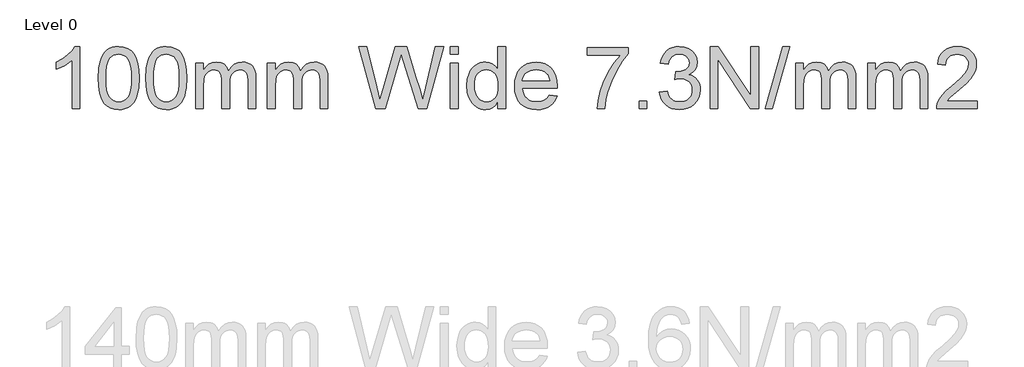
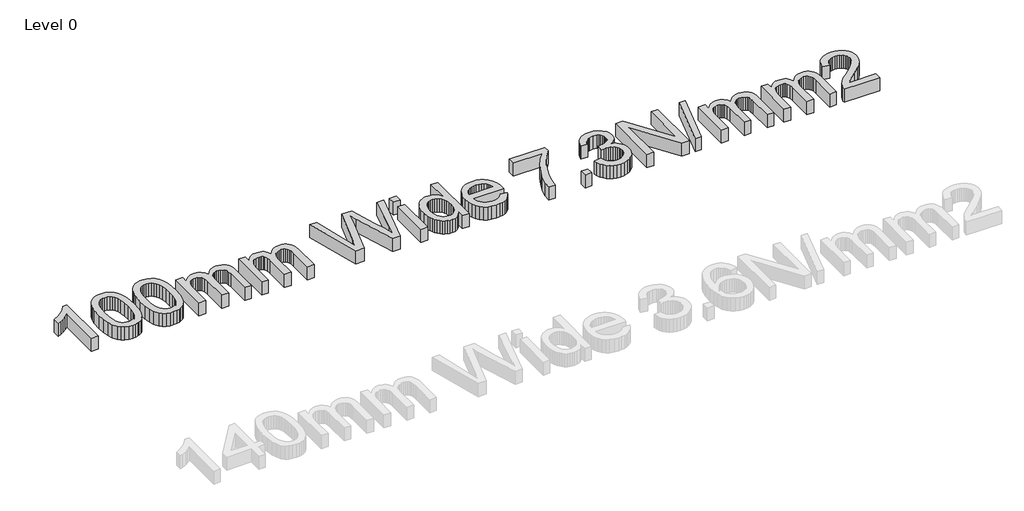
# One storey, part 3 of 4: 1 proxy.
"""IFC4 building model written with IfcOpenShell, lengths in millimetres."""

from ifc_helpers import new_model, si_unit, origin, origin_with_axes, place, context, project, spatial, polyline, outline, extrude, element, save

model = new_model("IFC4")

# Units and contexts
model_context = context("Model", 3, world=origin())
ifc_project = project(units=[si_unit("LENGTHUNIT", "METRE", prefix="MILLI")], contexts=[model_context])

# Site, building, storey
site = spatial("IfcSite", under=ifc_project)
building = spatial("IfcBuilding", under=site)
storey = spatial("IfcBuildingStorey", under=building, Name="Level 0", Elevation=0.0)

# Proxy
placement = place(None, origin())
element("IfcBuildingElementProxy", 1, Name="600mm Arial", ObjectType="600mm Arial", at=placement, inside=storey, context=model_context, shape_type="SweptSolid", body=[
    extrude(outline(polyline([(-38100.5892099, 16805.1347161), (-38174.4353638, 16805.1347161), (-38174.4353638, 17265.5193315), (-38205.2646907, 17240.5854372), (-38244.3872868, 17215.6876007), (-38285.4569984, 17193.9267834), (-38322.1276714, 17178.4039468), (-38322.1276714, 17248.2116392), (-38264.1288734, 17279.7621199), (-38213.8824791, 17317.2981776), (-38174.2731041, 17357.214043), (-38148.1853638, 17395.9039468), (-38100.5892099, 17395.9039468), (-38100.5892099, 16805.1347161)])), origin_with_axes(), (0.0, 0.0, 1.0), 150.0),
    extrude(outline(polyline([(-37925.2045945, 17095.7597161), (-37919.7779118, 17190.3210142), (-37912.9945585, 17230.4216752), (-37903.4978638, 17265.7356776), (-37891.3283926, 17296.5514829), (-37876.5267099, 17323.1575526), (-37859.0928157, 17345.5538868), (-37839.0267099, 17363.7404853), (-37816.2607844, 17377.8119997), (-37790.7274311, 17387.8630815), (-37762.4266498, 17393.8937305), (-37731.3584407, 17395.9039468), (-37685.853633, 17391.1443315), (-37645.1084407, 17376.8654853), (-37611.0339214, 17353.6263026), (-37585.541133, 17321.9856776), (-37566.2863253, 17282.214043), (-37550.9257484, 17234.5818315), (-37540.8656522, 17174.0950526), (-37537.5122868, 17095.7597161), (-37542.884883, 17001.7392834), (-37549.6006282, 16961.7738387), (-37559.0026714, 16926.5049084), (-37571.0774912, 16895.6755815), (-37585.8115657, 16869.0289468), (-37603.204895, 16846.5650045), (-37623.2574791, 16828.2837545), (-37646.0504479, 16814.1175887), (-37671.6649311, 16803.9988988), (-37700.1009287, 16797.9276848), (-37731.3584407, 16795.9039468), (-37772.0315176, 16799.4195718), (-37808.0892099, 16809.9664468), (-37839.5315176, 16827.5445718), (-37866.3584407, 16852.1539468), (-37892.103633, 16896.6401247), (-37910.4930561, 16952.0698122), (-37921.5267099, 17018.4430093), (-37925.2045945, 17095.7597161)]), holes=[polyline([(-37851.3584407, 17095.9039468), (-37849.1949791, 17031.7077329), (-37842.7045945, 16979.7440911), (-37831.8872868, 16940.0130214), (-37816.7430561, 16912.5145238), (-37798.4257484, 16893.8050887), (-37778.0892099, 16880.4412065), (-37755.7334407, 16872.4228771), (-37731.3584407, 16869.7501007), (-37706.9834407, 16872.4318916), (-37684.6276714, 16880.4772642), (-37664.291133, 16893.8862185), (-37645.9738253, 16912.6587545), (-37630.8295945, 16940.2023243), (-37620.0122868, 16979.9243795), (-37613.5219022, 17031.8249204), (-37611.3584407, 17095.9039468), (-37613.4497868, 17158.400942), (-37619.7238253, 17209.4496199), (-37630.1805561, 17249.0499805), (-37644.8199791, 17277.2020238), (-37662.8307964, 17296.8264228), (-37683.4017099, 17310.8438507), (-37706.5327195, 17319.2543074), (-37732.2238253, 17322.057793), (-37756.4726234, 17319.5878411), (-37778.4497868, 17312.1779853), (-37798.1553157, 17299.8282257), (-37815.5892099, 17282.5385622), (-37831.2382484, 17251.8895238), (-37842.416133, 17210.5674084), (-37849.1228638, 17158.5722161), (-37851.3584407, 17095.9039468)])]), origin_with_axes(), (0.0, 0.0, 1.0), 150.0),
    extrude(outline(polyline([(-37472.8969022, 17095.7597161), (-37467.4702195, 17190.3210142), (-37460.6868662, 17230.4216752), (-37451.1901714, 17265.7356776), (-37439.0207003, 17296.5514829), (-37424.2190176, 17323.1575526), (-37406.7851234, 17345.5538868), (-37386.7190176, 17363.7404853), (-37363.9530921, 17377.8119997), (-37338.4197388, 17387.8630815), (-37310.1189575, 17393.8937305), (-37279.0507484, 17395.9039468), (-37233.5459407, 17391.1443315), (-37192.8007484, 17376.8654853), (-37158.7262291, 17353.6263026), (-37133.2334407, 17321.9856776), (-37113.978633, 17282.214043), (-37098.6180561, 17234.5818315), (-37088.5579599, 17174.0950526), (-37085.2045945, 17095.7597161), (-37090.5771907, 17001.7392834), (-37097.2929359, 16961.7738387), (-37106.6949791, 16926.5049084), (-37118.7697988, 16895.6755815), (-37133.5038734, 16869.0289468), (-37150.8972027, 16846.5650045), (-37170.9497868, 16828.2837545), (-37193.7427556, 16814.1175887), (-37219.3572388, 16803.9988988), (-37247.7932363, 16797.9276848), (-37279.0507484, 16795.9039468), (-37319.7238253, 16799.4195718), (-37355.7815176, 16809.9664468), (-37387.2238253, 16827.5445718), (-37414.0507484, 16852.1539468), (-37439.7959407, 16896.6401247), (-37458.1853638, 16952.0698122), (-37469.2190176, 17018.4430093), (-37472.8969022, 17095.7597161)]), holes=[polyline([(-37399.0507484, 17095.9039468), (-37396.8872868, 17031.7077329), (-37390.3969022, 16979.7440911), (-37379.5795945, 16940.0130214), (-37364.4353638, 16912.5145238), (-37346.1180561, 16893.8050887), (-37325.7815176, 16880.4412065), (-37303.4257484, 16872.4228771), (-37279.0507484, 16869.7501007), (-37254.6757484, 16872.4318916), (-37232.3199791, 16880.4772642), (-37211.9834407, 16893.8862185), (-37193.666133, 16912.6587545), (-37178.5219022, 16940.2023243), (-37167.7045945, 16979.9243795), (-37161.2142099, 17031.8249204), (-37159.0507484, 17095.9039468), (-37161.1420945, 17158.400942), (-37167.416133, 17209.4496199), (-37177.8728638, 17249.0499805), (-37192.5122868, 17277.2020238), (-37210.5231041, 17296.8264228), (-37231.0940176, 17310.8438507), (-37254.2250272, 17319.2543074), (-37279.916133, 17322.057793), (-37304.1649311, 17319.5878411), (-37326.1420945, 17312.1779853), (-37345.8476234, 17299.8282257), (-37363.2815176, 17282.5385622), (-37378.9305561, 17251.8895238), (-37390.1084407, 17210.5674084), (-37396.8151714, 17158.5722161), (-37399.0507484, 17095.9039468)])]), origin_with_axes(), (0.0, 0.0, 1.0), 150.0),
    extrude(outline(polyline([(-37002.1276714, 16805.1347161), (-37002.1276714, 17238.9808699), (-36928.2815176, 17238.9808699), (-36928.2815176, 17167.5866392), (-36906.0699791, 17200.3811103), (-36877.5122868, 17226.0722161), (-36843.5819984, 17242.6767834), (-36805.2526714, 17248.2116392), (-36764.1829599, 17242.5686103), (-36746.7039936, 17235.5148243), (-36731.2622868, 17225.6395238), (-36706.6709407, 17198.542168), (-36690.5892099, 17162.3943315), (-36663.6721426, 17199.9394036), (-36632.9690176, 17226.7573122), (-36598.4798349, 17242.8480574), (-36560.2045945, 17248.2116392), (-36530.641794, 17245.9805694), (-36504.6937772, 17239.2873603), (-36482.360544, 17228.1320118), (-36463.6420945, 17212.5145238), (-36448.844919, 17192.2546079), (-36438.275508, 17167.1719757), (-36431.9338613, 17137.2666271), (-36429.8199791, 17102.5385622), (-36429.8199791, 16805.1347161), (-36503.666133, 16805.1347161), (-36503.666133, 17070.807793), (-36505.3788734, 17107.6407257), (-36510.5170945, 17132.4664468), (-36520.1444984, 17149.4676488), (-36535.3247868, 17162.8270238), (-36554.8500272, 17171.4808699), (-36577.5122868, 17174.3654853), (-36598.43927, 17172.5175286), (-36617.5182964, 17166.9736584), (-36634.7493662, 17157.7338747), (-36650.1324791, 17144.7981776), (-36662.7842219, 17127.7879613), (-36671.8211811, 17106.3246199), (-36677.2433565, 17080.4081536), (-36679.0507484, 17050.0385622), (-36679.0507484, 16805.1347161), (-36752.8969022, 16805.1347161), (-36752.8969022, 17079.0289468), (-36757.1697388, 17120.7837545), (-36769.9882484, 17150.5674084), (-36779.8996065, 17160.979067), (-36792.5423349, 17168.4159661), (-36807.9164335, 17172.8781055), (-36826.0219022, 17174.3654853), (-36854.4714214, 17170.3991392), (-36880.6853638, 17158.5001007), (-36902.3199791, 17138.9568315), (-36917.0315176, 17112.057793), (-36925.4690176, 17074.7380815), (-36928.2815176, 17023.932793), (-36928.2815176, 16805.1347161), (-37002.1276714, 16805.1347161)])), origin_with_axes(), (0.0, 0.0, 1.0), 150.0),
    extrude(outline(polyline([(-36319.0507484, 16805.1347161), (-36319.0507484, 17238.9808699), (-36245.2045945, 17238.9808699), (-36245.2045945, 17167.5866392), (-36222.9930561, 17200.3811103), (-36194.4353638, 17226.0722161), (-36160.5050753, 17242.6767834), (-36122.1757484, 17248.2116392), (-36081.1060368, 17242.5686103), (-36063.6270705, 17235.5148243), (-36048.1853638, 17225.6395238), (-36023.5940176, 17198.542168), (-36007.5122868, 17162.3943315), (-35980.5952195, 17199.9394036), (-35949.8920945, 17226.7573122), (-35915.4029118, 17242.8480574), (-35877.1276714, 17248.2116392), (-35847.564871, 17245.9805694), (-35821.6168541, 17239.2873603), (-35799.283621, 17228.1320118), (-35780.5651714, 17212.5145238), (-35765.767996, 17192.2546079), (-35755.1985849, 17167.1719757), (-35748.8569383, 17137.2666271), (-35746.7430561, 17102.5385622), (-35746.7430561, 16805.1347161), (-35820.5892099, 16805.1347161), (-35820.5892099, 17070.807793), (-35822.3019503, 17107.6407257), (-35827.4401714, 17132.4664468), (-35837.0675753, 17149.4676488), (-35852.2478638, 17162.8270238), (-35871.7731041, 17171.4808699), (-35894.4353638, 17174.3654853), (-35915.3623469, 17172.5175286), (-35934.4413734, 17166.9736584), (-35951.6724431, 17157.7338747), (-35967.0555561, 17144.7981776), (-35979.7072988, 17127.7879613), (-35988.744258, 17106.3246199), (-35994.1664335, 17080.4081536), (-35995.9738253, 17050.0385622), (-35995.9738253, 16805.1347161), (-36069.8199791, 16805.1347161), (-36069.8199791, 17079.0289468), (-36074.0928157, 17120.7837545), (-36086.9113253, 17150.5674084), (-36096.8226835, 17160.979067), (-36109.4654118, 17168.4159661), (-36124.8395104, 17172.8781055), (-36142.9449791, 17174.3654853), (-36171.3944984, 17170.3991392), (-36197.6084407, 17158.5001007), (-36219.2430561, 17138.9568315), (-36233.9545945, 17112.057793), (-36242.3920945, 17074.7380815), (-36245.2045945, 17023.932793), (-36245.2045945, 16805.1347161), (-36319.0507484, 16805.1347161)])), origin_with_axes(), (0.0, 0.0, 1.0), 150.0),
    extrude(outline(polyline([(-35290.2526714, 16805.1347161), (-35451.3584407, 17395.9039468), (-35375.2045945, 17395.9039468), (-35281.7430561, 17007.6347161), (-35252.8969022, 16887.7789468), (-35222.0315176, 16993.7885622), (-35104.916133, 17395.9039468), (-34995.1565176, 17395.9039468), (-34910.0603638, 17104.4135622), (-34873.6060368, 16996.2404853), (-34846.7430561, 16887.7789468), (-34818.7622868, 17004.1731776), (-34724.4353638, 17395.9039468), (-34648.2815176, 17395.9039468), (-34809.5315176, 16805.1347161), (-34888.4257484, 16805.1347161), (-35030.0603638, 17260.9039468), (-35049.8199791, 17324.5097161), (-35072.0315176, 17247.9231776), (-35201.1180561, 16805.1347161), (-35290.2526714, 16805.1347161)])), origin_with_axes(), (0.0, 0.0, 1.0), 150.0),
    extrude(outline(polyline([(-34583.666133, 16805.1347161), (-34583.666133, 17238.9808699), (-34509.8199791, 17238.9808699), (-34509.8199791, 16805.1347161), (-34583.666133, 16805.1347161)])), origin_with_axes(), (0.0, 0.0, 1.0), 150.0),
    extrude(outline(polyline([(-34583.666133, 17322.057793), (-34583.666133, 17395.9039468), (-34509.8199791, 17395.9039468), (-34509.8199791, 17322.057793), (-34583.666133, 17322.057793)])), origin_with_axes(), (0.0, 0.0, 1.0), 150.0),
    extrude(outline(polyline([(-34131.3584407, 16805.1347161), (-34131.3584407, 16874.7981776), (-34153.4527916, 16840.2819517), (-34180.2166138, 16815.6275045), (-34211.649907, 16800.8348363), (-34247.7526714, 16795.9039468), (-34272.1276714, 16797.6888026), (-34295.4930561, 16803.0433699), (-34317.8488253, 16811.9676488), (-34339.1949791, 16824.4616392), (-34358.8644503, 16840.1512425), (-34376.1901714, 16858.6623603), (-34391.1721426, 16879.9949925), (-34403.8103638, 16904.1491392), (-34413.8434166, 16930.6650646), (-34421.009883, 16959.0830334), (-34426.7430561, 17021.6251007), (-34421.4606041, 17083.3919276), (-34405.6132484, 17139.1731776), (-34393.7322388, 17164.025942), (-34379.2190176, 17185.7957738), (-34362.0735849, 17204.4826728), (-34342.2959407, 17220.0866392), (-34320.5847027, 17232.3913267), (-34297.6384888, 17241.1803892), (-34273.4572988, 17246.4538267), (-34248.041133, 17248.2116392), (-34211.9113253, 17243.1815911), (-34179.9642099, 17228.0914468), (-34152.884883, 17204.9604372), (-34131.3584407, 17175.807793), (-34131.3584407, 17395.9039468), (-34057.5122868, 17395.9039468), (-34057.5122868, 16805.1347161), (-34131.3584407, 16805.1347161)]), holes=[polyline([(-34352.8969022, 17021.9135622), (-34350.8145705, 16986.1037666), (-34344.5675753, 16955.1166872), (-34334.1559166, 16928.9523243), (-34319.5795945, 16907.6106776), (-34302.1727436, 16891.0466752), (-34283.2694984, 16879.2152449), (-34262.8698589, 16872.1163868), (-34240.9738253, 16869.7501007), (-34218.9741258, 16872.0082137), (-34198.6961811, 16878.7825526), (-34180.1399912, 16890.0731175), (-34163.3055561, 16905.8799084), (-34149.3286931, 16926.3291271), (-34139.3452195, 16951.5469757), (-34133.3551354, 16981.5334541), (-34131.3584407, 17016.2885622), (-34133.3911931, 17054.3925286), (-34139.4894503, 17087.0698122), (-34149.6532123, 17114.3204132), (-34163.8824791, 17136.1443315), (-34181.0865056, 17152.8660863), (-34200.1745464, 17164.8101968), (-34221.1466017, 17171.9766632), (-34244.0026714, 17174.3654853), (-34266.3313974, 17172.0713146), (-34286.7310368, 17165.1888026), (-34305.2015897, 17153.7179493), (-34321.7430561, 17137.6587545), (-34335.3728638, 17116.659656), (-34345.1084407, 17090.3690911), (-34350.9497868, 17058.7870598), (-34352.8969022, 17021.9135622)])]), origin_with_axes(), (0.0, 0.0, 1.0), 150.0),
    extrude(outline(polyline([(-33642.9930561, 16934.3654853), (-33570.5892099, 16925.1347161), (-33581.6904719, 16896.135317), (-33596.6769503, 16870.5794276), (-33615.548645, 16848.4670478), (-33638.3055561, 16829.7981776), (-33664.7133085, 16814.9694517), (-33694.5375272, 16804.3775045), (-33727.7782123, 16798.0223363), (-33764.4353638, 16795.9039468), (-33810.2556763, 16799.5592954), (-33851.0819984, 16810.5253411), (-33886.9143301, 16828.8020839), (-33917.7526714, 16854.3895238), (-33942.5513493, 16886.5755214), (-33960.2646907, 16924.6479372), (-33970.8926955, 16968.6067714), (-33974.4353638, 17018.4520238), (-33970.8566378, 17069.9874805), (-33960.1204599, 17115.4111584), (-33942.2268301, 17154.7230574), (-33917.1757484, 17187.9231776), (-33886.4185368, 17214.2993795), (-33851.4065176, 17233.1395238), (-33812.1396907, 17244.4436103), (-33768.6180561, 17248.2116392), (-33726.4981642, 17244.4526247), (-33688.4077195, 17233.1755815), (-33654.3467219, 17214.3805093), (-33624.3151714, 17188.0674084), (-33599.8004479, 17154.9394036), (-33582.2899311, 17115.6996199), (-33571.783621, 17070.3480574), (-33568.2815176, 17018.8847161), (-33568.7142099, 16998.9808699), (-33900.5892099, 16998.9808699), (-33896.3118662, 16969.5127209), (-33887.806758, 16943.7044276), (-33875.0738854, 16921.5559901), (-33858.1132484, 16903.0674084), (-33837.8623469, 16888.4910863), (-33815.2586811, 16878.0794276), (-33790.3022508, 16871.8324324), (-33762.9930561, 16869.7501007), (-33723.6901714, 16873.6082738), (-33690.5892099, 16885.182793), (-33663.6901714, 16905.1948122), (-33642.9930561, 16934.3654853)]), holes=[polyline([(-33900.5892099, 17072.8270238), (-33642.1276714, 17072.8270238), (-33652.1156522, 17111.8414468), (-33660.7063974, 17127.1839949), (-33671.6949791, 17139.7501007), (-33691.8332003, 17154.8943315), (-33714.7478638, 17165.7116392), (-33740.4389695, 17172.2020238), (-33768.9065176, 17174.3654853), (-33794.8725633, 17172.6392233), (-33818.6841618, 17167.4604372), (-33840.3413133, 17158.8291271), (-33859.8440176, 17146.745293), (-33876.2097027, 17131.7678291), (-33888.4557964, 17114.4556295), (-33896.5822988, 17094.8086944), (-33900.5892099, 17072.8270238)])]), origin_with_axes(), (0.0, 0.0, 1.0), 150.0),
    extrude(outline(polyline([(-33282.1276714, 17312.8270238), (-33282.1276714, 17386.6731776), (-32894.4353638, 17386.6731776), (-32894.4353638, 17326.9616392), (-32949.6937772, 17257.0277449), (-33004.4113253, 17168.0914468), (-33052.6745464, 17068.2657257), (-33088.5699791, 16965.6635622), (-33106.166133, 16888.8967353), (-33115.9738253, 16805.1347161), (-33189.8199791, 16805.1347161), (-33181.8332003, 16881.2525045), (-33160.4690176, 16971.7212545), (-33126.3043541, 17067.6166872), (-33079.916133, 17160.0145238), (-33025.7574791, 17243.542168), (-32968.2815176, 17312.8270238), (-33282.1276714, 17312.8270238)])), origin_with_axes(), (0.0, 0.0, 1.0), 150.0),
    extrude(outline(polyline([(-32792.8969022, 16805.1347161), (-32792.8969022, 16878.9808699), (-32719.0507484, 16878.9808699), (-32719.0507484, 16805.1347161), (-32792.8969022, 16805.1347161)])), origin_with_axes(), (0.0, 0.0, 1.0), 150.0),
    extrude(outline(polyline([(-32599.0507484, 16962.057793), (-32525.2045945, 16971.2885622), (-32508.6721426, 16924.8823122), (-32497.5258085, 16907.3312305), (-32484.4594022, 16893.5481776), (-32469.1754479, 16883.136519), (-32451.3764695, 16875.6996199), (-32431.0624671, 16871.2374805), (-32408.2334407, 16869.7501007), (-32381.478633, 16871.7963747), (-32357.6084407, 16877.9351968), (-32336.6228638, 16888.166567), (-32318.5219022, 16902.4904853), (-32303.9455801, 16919.8342353), (-32293.5339214, 16939.1251007), (-32287.2869263, 16960.3630815), (-32285.2045945, 16983.5481776), (-32287.2688974, 17005.6290069), (-32293.4618061, 17025.7176488), (-32303.7833205, 17043.8141031), (-32318.2334407, 17059.9183699), (-32335.8656522, 17073.1380214), (-32355.7334407, 17082.5806295), (-32377.8368061, 17088.2461944), (-32402.1757484, 17090.1347161), (-32425.5050753, 17088.1154853), (-32453.9545945, 17082.057793), (-32445.7334407, 17155.9039468), (-32433.9065176, 17155.0385622), (-32389.6637291, 17160.339043), (-32350.1084407, 17176.2404853), (-32333.8283926, 17188.2657257), (-32322.1997868, 17203.1395238), (-32315.2226234, 17220.8618795), (-32312.8969022, 17241.432793), (-32314.5825993, 17258.1320118), (-32319.6396907, 17273.3258218), (-32328.0681763, 17287.0142233), (-32339.8680561, 17299.1972161), (-32354.3271907, 17309.1987185), (-32370.7334407, 17316.3426488), (-32409.3872868, 17322.057793), (-32448.1132484, 17316.2885622), (-32464.8259888, 17309.0770238), (-32479.7719022, 17298.9808699), (-32492.5813974, 17286.0001007), (-32502.884883, 17270.1347161), (-32510.6823589, 17251.3847161), (-32515.9738253, 17229.7501007), (-32589.8199791, 17238.9808699), (-32581.0669743, 17274.2362786), (-32568.0771907, 17305.2909661), (-32550.8506282, 17332.1449324), (-32529.3872868, 17354.7981776), (-32504.3632484, 17372.7819517), (-32476.4545945, 17385.6275045), (-32445.6613253, 17393.3348363), (-32411.9834407, 17395.9039468), (-32365.5591618, 17390.8378411), (-32322.9209407, 17375.6395238), (-32286.9714214, 17351.6611584), (-32260.6132484, 17320.2549084), (-32244.4413734, 17284.0710142), (-32239.0507484, 17245.7597161), (-32244.1709407, 17210.0626007), (-32259.5315176, 17177.682793), (-32284.916133, 17150.0986584), (-32320.1084407, 17128.7885622), (-32295.4990657, 17121.0902449), (-32273.8824791, 17110.1106776), (-32255.2586811, 17095.8498603), (-32239.6276714, 17078.307793), (-32227.259883, 17057.917168), (-32218.4257484, 17035.1106776), (-32213.1252676, 17009.8883218), (-32211.3584407, 16982.2501007), (-32214.8920945, 16944.7861584), (-32225.4930561, 16910.2789468), (-32243.1613253, 16878.7284661), (-32267.8969022, 16850.1347161), (-32298.0321186, 16826.4087545), (-32331.8993061, 16809.4616392), (-32369.4984647, 16799.2933699), (-32410.8295945, 16795.9039468), (-32448.1853638, 16798.7975767), (-32482.2238253, 16807.4784661), (-32512.9449791, 16821.9466151), (-32540.3488253, 16842.2020238), (-32563.3265897, 16867.0547882), (-32580.7694984, 16895.3150045), (-32592.6775513, 16926.9826728), (-32599.0507484, 16962.057793)])), origin_with_axes(), (0.0, 0.0, 1.0), 150.0),
    extrude(outline(polyline([(-32119.0507484, 16805.1347161), (-32119.0507484, 17395.9039468), (-32040.0122868, 17395.9039468), (-31731.3584407, 16927.8751007), (-31731.3584407, 17395.9039468), (-31657.5122868, 17395.9039468), (-31657.5122868, 16805.1347161), (-31736.5507484, 16805.1347161), (-32045.2045945, 17273.307793), (-32045.2045945, 16805.1347161), (-32119.0507484, 16805.1347161)])), origin_with_axes(), (0.0, 0.0, 1.0), 150.0),
    extrude(outline(polyline([(-31592.8969022, 16805.1347161), (-31426.7430561, 17395.9039468), (-31360.1084407, 17395.9039468), (-31526.2622868, 16805.1347161), (-31592.8969022, 16805.1347161)])), origin_with_axes(), (0.0, 0.0, 1.0), 150.0),
    extrude(outline(polyline([(-31306.7430561, 16805.1347161), (-31306.7430561, 17238.9808699), (-31232.8969022, 17238.9808699), (-31232.8969022, 17167.5866392), (-31210.6853638, 17200.3811103), (-31182.1276714, 17226.0722161), (-31148.197383, 17242.6767834), (-31109.8680561, 17248.2116392), (-31068.7983445, 17242.5686103), (-31051.3193782, 17235.5148243), (-31035.8776714, 17225.6395238), (-31011.2863253, 17198.542168), (-30995.2045945, 17162.3943315), (-30968.2875272, 17199.9394036), (-30937.5844022, 17226.7573122), (-30903.0952195, 17242.8480574), (-30864.8199791, 17248.2116392), (-30835.2571787, 17245.9805694), (-30809.3091618, 17239.2873603), (-30786.9759287, 17228.1320118), (-30768.2574791, 17212.5145238), (-30753.4603037, 17192.2546079), (-30742.8908926, 17167.1719757), (-30736.549246, 17137.2666271), (-30734.4353638, 17102.5385622), (-30734.4353638, 16805.1347161), (-30808.2815176, 16805.1347161), (-30808.2815176, 17070.807793), (-30809.994258, 17107.6407257), (-30815.1324791, 17132.4664468), (-30824.759883, 17149.4676488), (-30839.9401714, 17162.8270238), (-30859.4654118, 17171.4808699), (-30882.1276714, 17174.3654853), (-30903.0546546, 17172.5175286), (-30922.1336811, 17166.9736584), (-30939.3647508, 17157.7338747), (-30954.7478638, 17144.7981776), (-30967.3996065, 17127.7879613), (-30976.4365657, 17106.3246199), (-30981.8587412, 17080.4081536), (-30983.666133, 17050.0385622), (-30983.666133, 16805.1347161), (-31057.5122868, 16805.1347161), (-31057.5122868, 17079.0289468), (-31061.7851234, 17120.7837545), (-31074.603633, 17150.5674084), (-31084.5149912, 17160.979067), (-31097.1577195, 17168.4159661), (-31112.5318181, 17172.8781055), (-31130.6372868, 17174.3654853), (-31159.0868061, 17170.3991392), (-31185.3007484, 17158.5001007), (-31206.9353638, 17138.9568315), (-31221.6469022, 17112.057793), (-31230.0844022, 17074.7380815), (-31232.8969022, 17023.932793), (-31232.8969022, 16805.1347161), (-31306.7430561, 16805.1347161)])), origin_with_axes(), (0.0, 0.0, 1.0), 150.0),
    extrude(outline(polyline([(-30623.666133, 16805.1347161), (-30623.666133, 17238.9808699), (-30549.8199791, 17238.9808699), (-30549.8199791, 17167.5866392), (-30527.6084407, 17200.3811103), (-30499.0507484, 17226.0722161), (-30465.1204599, 17242.6767834), (-30426.791133, 17248.2116392), (-30385.7214214, 17242.5686103), (-30368.2424551, 17235.5148243), (-30352.8007484, 17225.6395238), (-30328.2094022, 17198.542168), (-30312.1276714, 17162.3943315), (-30285.2106041, 17199.9394036), (-30254.5074791, 17226.7573122), (-30220.0182964, 17242.8480574), (-30181.7430561, 17248.2116392), (-30152.1802556, 17245.9805694), (-30126.2322388, 17239.2873603), (-30103.8990056, 17228.1320118), (-30085.1805561, 17212.5145238), (-30070.3833806, 17192.2546079), (-30059.8139695, 17167.1719757), (-30053.4723229, 17137.2666271), (-30051.3584407, 17102.5385622), (-30051.3584407, 16805.1347161), (-30125.2045945, 16805.1347161), (-30125.2045945, 17070.807793), (-30126.9173349, 17107.6407257), (-30132.0555561, 17132.4664468), (-30141.6829599, 17149.4676488), (-30156.8632484, 17162.8270238), (-30176.3884888, 17171.4808699), (-30199.0507484, 17174.3654853), (-30219.9777315, 17172.5175286), (-30239.056758, 17166.9736584), (-30256.2878277, 17157.7338747), (-30271.6709407, 17144.7981776), (-30284.3226835, 17127.7879613), (-30293.3596426, 17106.3246199), (-30298.7818181, 17080.4081536), (-30300.5892099, 17050.0385622), (-30300.5892099, 16805.1347161), (-30374.4353638, 16805.1347161), (-30374.4353638, 17079.0289468), (-30378.7082003, 17120.7837545), (-30391.5267099, 17150.5674084), (-30401.4380681, 17160.979067), (-30414.0807964, 17168.4159661), (-30429.454895, 17172.8781055), (-30447.5603638, 17174.3654853), (-30476.009883, 17170.3991392), (-30502.2238253, 17158.5001007), (-30523.8584407, 17138.9568315), (-30538.5699791, 17112.057793), (-30547.0074791, 17074.7380815), (-30549.8199791, 17023.932793), (-30549.8199791, 16805.1347161), (-30623.666133, 16805.1347161)])), origin_with_axes(), (0.0, 0.0, 1.0), 150.0),
    extrude(outline(polyline([(-29580.5892099, 16878.9808699), (-29580.5892099, 16805.1347161), (-29968.2815176, 16805.1347161), (-29966.6589214, 16831.1323122), (-29960.3488253, 16856.0481776), (-29942.1396907, 16895.8378411), (-29915.4930561, 16934.4376007), (-29876.947383, 16974.8402449), (-29823.041133, 17020.0385622), (-29743.353633, 17090.8198122), (-29695.541133, 17143.0674084), (-29681.5958205, 17164.4135622), (-29671.634883, 17185.4712545), (-29665.6583205, 17206.2404853), (-29663.666133, 17226.7212545), (-29665.5456402, 17245.9895839), (-29671.1841618, 17263.698418), (-29680.5816979, 17279.8477569), (-29693.7382484, 17294.4376007), (-29709.923645, 17306.5214348), (-29728.4077195, 17315.1527449), (-29749.1904719, 17320.331531), (-29772.2719022, 17322.057793), (-29796.5883085, 17320.3720959), (-29818.3356041, 17315.3150045), (-29837.5137892, 17306.886519), (-29854.1228638, 17295.0866392), (-29867.5588613, 17280.3119997), (-29877.2178157, 17262.9592353), (-29883.0997267, 17243.0283459), (-29885.2045945, 17220.5193315), (-29959.0507484, 17229.7501007), (-29952.7000873, 17267.8720959), (-29941.1481041, 17301.1803892), (-29924.3947988, 17329.6749805), (-29902.4401714, 17353.3558699), (-29875.7890296, 17371.9706536), (-29844.9461811, 17385.2669276), (-29809.9116258, 17393.244692), (-29770.6853638, 17395.9039468), (-29731.1075392, 17392.9472161), (-29695.8836811, 17384.0770238), (-29665.0137892, 17369.2933699), (-29638.4978638, 17348.5962545), (-29617.2012892, 17323.5181295), (-29601.9894503, 17295.5914468), (-29592.8623469, 17264.8162065), (-29589.8199791, 17231.1924084), (-29593.1012291, 17195.8738988), (-29602.9449791, 17161.1683699), (-29620.4149311, 17125.8678892), (-29646.5747868, 17088.7645238), (-29688.275508, 17044.4676488), (-29752.3680561, 16987.5866392), (-29837.3199791, 16916.5529853), (-29870.6372868, 16878.9808699), (-29580.5892099, 16878.9808699)])), origin_with_axes(), (0.0, 0.0, 1.0), 150.0),
])

save(model, "model.ifc")
